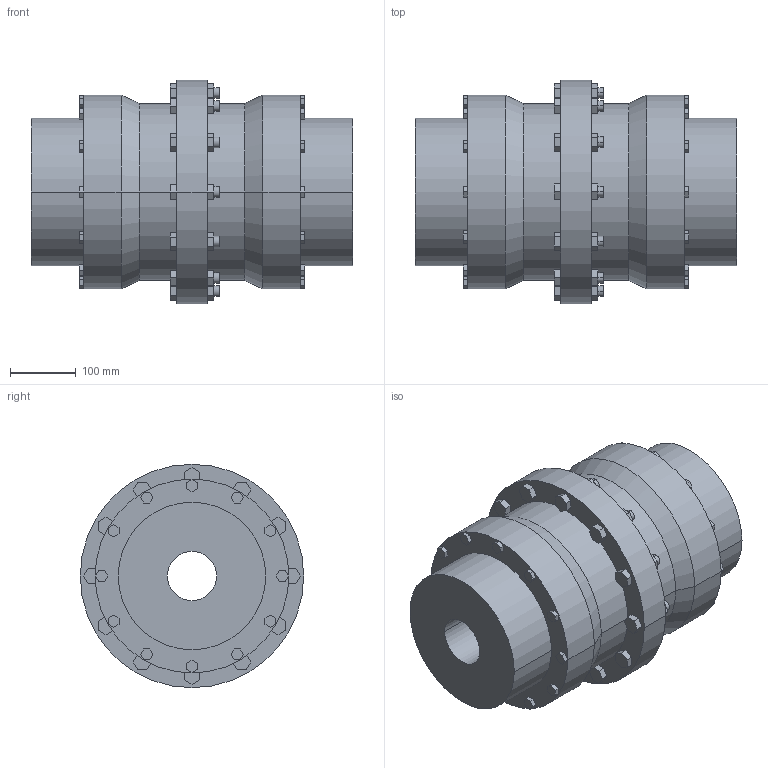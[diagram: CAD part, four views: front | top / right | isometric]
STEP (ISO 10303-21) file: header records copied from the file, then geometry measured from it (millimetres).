
FILE_DESCRIPTION((''),'2;1');
FILE_NAME('A19715700-0_ASM','2019-05-23T',('AB_Roschiwal'),('RENK AG'),'PRO/ENGINEER BY PARAMETRIC TECHNOLOGY CORPORATION, 2015440','PRO/ENGINEER BY PARAMETRIC TECHNOLOGY CORPORATION, 2015440','');
FILE_SCHEMA(('CONFIG_CONTROL_DESIGN'));
Length unit declared in the file: millimetre
Products named in the file (3): SBK140_GEHAEUSE; SBK140_NABE; A19715700-0_ASM
Assembly tree (3 placements, depth 2):
  A19715700-0_ASM
    SBK140_GEHAEUSE
    SBK140_NABE  x2
Bounding box: 490 x 340 x 340 mm (x, y, z)
Volume: 19507267.8 mm3; surface area: 1216338.7 mm2
Topology: 3 solids, 3 shells, 422 faces, 1036 edges, 688 vertices
Faces by surface type: plane 362, cylinder 56, cone 4
Entity records: 12052 total; most frequent: CARTESIAN_POINT 2100, ORIENTED_EDGE 2024, DIRECTION 1940, EDGE_CURVE 1012, VECTOR 916, LINE 916, VERTEX_POINT 672, AXIS2_PLACEMENT_3D 512
